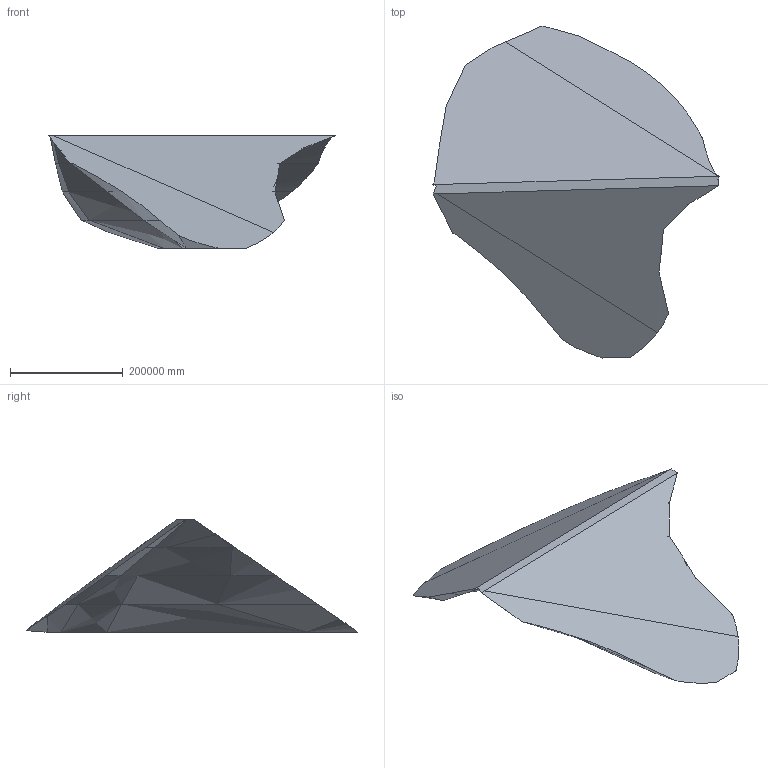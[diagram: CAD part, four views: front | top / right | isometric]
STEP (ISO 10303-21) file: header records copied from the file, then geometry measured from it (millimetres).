
FILE_DESCRIPTION(/* description */ (''),/* implementation_level */ '2;1');
FILE_NAME(/* name */ 'Volume0-0',/* time_stamp */ '2024-07-05T16:57:01+02:00',/* author */ (''),/* organization */ (''),/* preprocessor_version */ 'ST-DEVELOPER v16.5',/* originating_system */ 'Rhino 7.35',/* authorisation */ '');
FILE_SCHEMA (('CONFIG_CONTROL_DESIGN'));
Length unit declared in the file: metre
Products named in the file (1): Document
Bounding box: 508311.04 x 589104.8 x 199500 mm (x, y, z)
Volume: 11109087844107710 mm3; surface area: 484720394272.6 mm2
Topology: 1 solids, 1 shells, 49 faces, 111 edges, 64 vertices
Faces by surface type: bspline 32, plane 17
Entity records: 1429 total; most frequent: CARTESIAN_POINT 599, ORIENTED_EDGE 222, EDGE_CURVE 111, B_SPLINE_CURVE_WITH_KNOTS 111, VERTEX_POINT 64, ADVANCED_FACE 49, FACE_OUTER_BOUND 49, EDGE_LOOP 49
